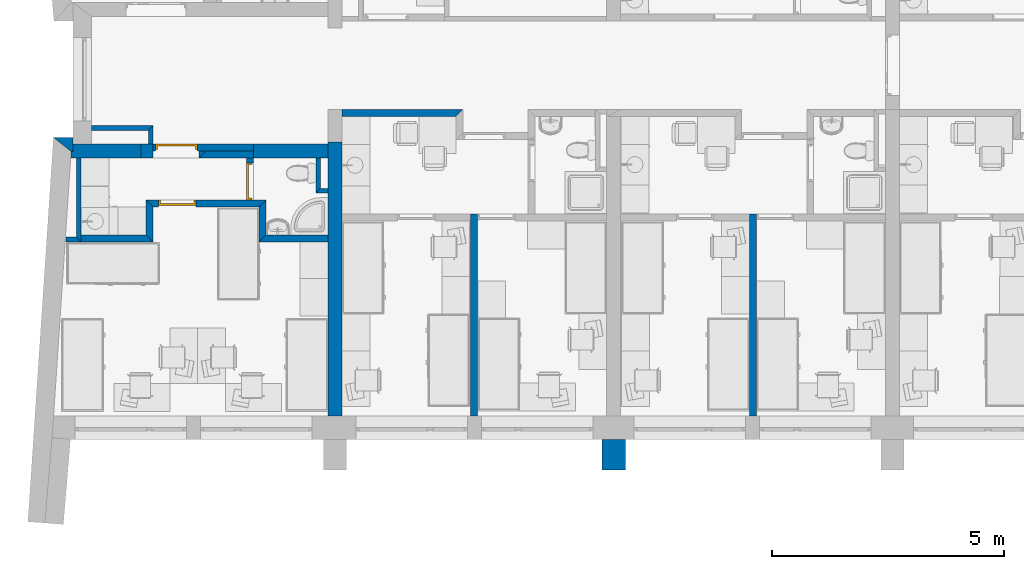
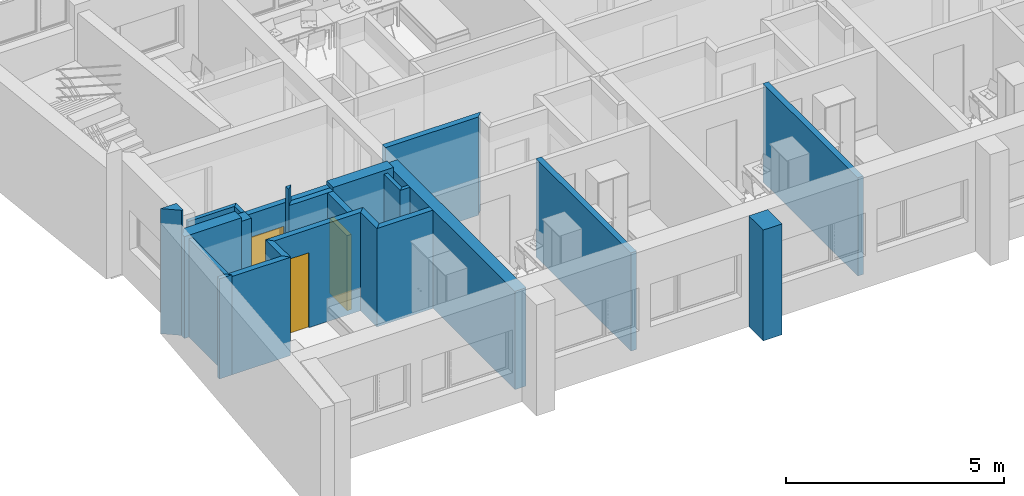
# One storey, part 2 of 172: 24 walls, 3 doors, 3 openings.
"""IFC2X3 building model written with IfcOpenShell, lengths in millimetres."""

from ifc_helpers import new_model, entity, si_unit, converted_unit, money_unit, direction, frame, origin_with_axes, place, context, subcontext, project, spatial, polyline, outline, extrude, faceted_brep, source, transform, mapped, material, material_list, layer, layer_set, layer_usage, type_object, element, fill, save


model = new_model("IFC2X3")

# Units and contexts
model_context = context("Model", 3, precision=1e-05, world=origin_with_axes(), true_north=direction((0.0, 1.0)))
body_context = subcontext(model_context, "Body", "Model", "MODEL_VIEW")
ifc_project = project(units=[si_unit("LENGTHUNIT", "METRE", prefix="MILLI"), si_unit("AREAUNIT", "SQUARE_METRE"), si_unit("VOLUMEUNIT", "CUBIC_METRE"), converted_unit("PLANEANGLEUNIT", "DEGREE", entity("IfcPlaneAngleMeasure", 0.0174532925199), si_unit("PLANEANGLEUNIT", "RADIAN"), dimensions=[0, 0, 0, 0, 0, 0, 0]), si_unit("SOLIDANGLEUNIT", "STERADIAN"), money_unit("USD"), converted_unit("TIMEUNIT", "Year", entity("IfcTimeMeasure", 31556926.0), si_unit("TIMEUNIT", "SECOND"), dimensions=[0, 0, 0, 0, 0, 0, 0]), si_unit("MASSUNIT", "GRAM"), si_unit("THERMODYNAMICTEMPERATUREUNIT", "DEGREE_CELSIUS"), si_unit("LUMINOUSINTENSITYUNIT", "LUMEN")], contexts=[model_context])

# Site, building, storey
site_placement = place(None, origin_with_axes())
site = spatial("IfcSite", under=ifc_project, at=site_placement, Name="Site", CompositionType="ELEMENT")
building_placement = place(site_placement, origin_with_axes())
building = spatial("IfcBuilding", under=site, at=building_placement, Name="Building", CompositionType="ELEMENT")
storey_placement = place(building_placement, frame((0.0, 0.0, 3200.0), z_axis=(0.0, 0.0, 1.0), x_axis=(1.0, 0.0, 0.0)))
storey = spatial("IfcBuildingStorey", under=building, at=storey_placement, Name="3KORRUS", CompositionType="ELEMENT", Elevation=3200.0)

# Walls
ifc_material_1 = material(Name="Olemasolevad seinad tellis, uus viimistlus")
ifc_layer_1 = layer(ifc_material_1, 300.0, ventilated="UNKNOWN")
ifc_layer_set_1 = layer_set([ifc_layer_1], Name="Olemasolevad seinad tellis, uus viimistlus 300")
ifc_layer_usage_1 = layer_usage(ifc_layer_set_1, "AXIS2", "POSITIVE", -300.0)
wall_type_1 = type_object("IfcWallType", Name="Olemasolevad seinad tellis, uus viimistlus 300", PredefinedType="NOTDEFINED")
wall_1_placement = place(storey_placement, frame((-54200.4261075, -13645.7452196, 0.0), z_axis=(0.0, 0.0, 1.0), x_axis=(1.0, 0.0, 0.0)))
element("IfcWallStandardCase", 1, at=wall_1_placement, inside=storey, type_object=wall_type_1, material=ifc_layer_usage_1, Name="VS1", ObjectType="VS1", context=body_context, shape_type="SweptSolid", body=[
    extrude(outline(polyline([(380.933472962, -300.0), (422.4879505, -300.0), (422.4879505, 0.0), (0.0, 0.0), (380.933472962, -300.0)])), origin_with_axes(), (0.0, 0.0, 1.0), 3500.0),
])
ifc_layer_2 = layer(ifc_material_1, 500.0, ventilated="UNKNOWN")
ifc_layer_set_2 = layer_set([ifc_layer_2], Name="Olemasolevad seinad tellis, uus viimistlus 500")
ifc_layer_usage_2 = layer_usage(ifc_layer_set_2, "AXIS2", "POSITIVE", -100.0)
wall_type_2 = type_object("IfcWallType", Name="Olemasolevad seinad tellis, uus viimistlus 500", PredefinedType="NOTDEFINED")
wall_2_placement = place(storey_placement, frame((-41990.2967033, -20796.6419407, 0.0), z_axis=(0.0, 0.0, 1.0), x_axis=(0.0, 1.0, 0.0)))
element("IfcWallStandardCase", 2, at=wall_2_placement, inside=storey, type_object=wall_type_2, material=ifc_layer_usage_2, Name="VS1", ObjectType="VS1", context=body_context, shape_type="SweptSolid", body=[
    extrude(outline(polyline([(0.0, -100.0), (657.402041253, -100.0), (657.402041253, 400.0), (0.0, 400.0), (0.0, -100.0)])), origin_with_axes(), (0.0, 0.0, 1.0), 3100.0),
])

# Wall, opening, door
ifc_material_2 = material(Name="UmbKipsplaat")
ifc_layer_3 = layer(ifc_material_2, 13.0, ventilated="UNKNOWN")
ifc_layer_4 = layer(ifc_material_2, 13.0, ventilated="UNKNOWN")
ifc_material_3 = material(Name="SOOJUSTUS MINERAALVILL")
ifc_layer_5 = layer(ifc_material_3, 98.0, ventilated="UNKNOWN")
ifc_layer_6 = layer(ifc_material_2, 13.0, ventilated="UNKNOWN")
ifc_layer_7 = layer(ifc_material_2, 13.0, ventilated="UNKNOWN")
ifc_layer_set_3 = layer_set([ifc_layer_3, ifc_layer_4, ifc_layer_5, ifc_layer_6, ifc_layer_7], Name="kipssein150")
ifc_layer_usage_3 = layer_usage(ifc_layer_set_3, "AXIS2", "POSITIVE", -150.0)
wall_type_3 = type_object("IfcWallType", Name="kipssein150 150", PredefinedType="NOTDEFINED")
wall_3_placement = place(storey_placement, frame((-52053.4064051, -13787.3375674, 0.0), z_axis=(0.0, 0.0, 1.0), x_axis=(1.0, 0.0, 0.0)))
wall_3 = element("IfcWallStandardCase", 3, at=wall_3_placement, inside=storey, type_object=wall_type_3, material=ifc_layer_usage_3, Name="SS1", ObjectType="SS1", context=body_context, shape_type="SweptSolid", body=[
    extrude(outline(polyline([(0.0, -150.0), (2162.95649813, -150.0), (2162.95649813, 0.0), (0.0, 0.0), (0.0, -150.0)])), origin_with_axes(), (0.0, 0.0, 1.0), 2750.0),
])
opening_1_placement = place(wall_3_placement, frame((500.0, 0.0, 0.0), z_axis=(0.0, 0.0, 1.0), x_axis=(1.0, 0.0, 0.0)))
opening_1 = element("IfcOpeningElement", 4, at=opening_1_placement, cuts=wall_3, Name="SU2-6", context=body_context, shape_type="SweptSolid", body=[
    extrude(outline(polyline([(-450.0, -2100.0), (450.0, -2100.0), (450.0, 0.0), (-450.0, 0.0), (-450.0, -2100.0)])), frame((0.0, -150.0, 0.0), z_axis=(0.0, -1.0, 0.0), x_axis=(-1.0, 0.0, 0.0)), (0.0, 0.0, -1.0), 450.0),
])
ifc_material_4 = material(Name="Background")
ifc_material_list = material_list([ifc_material_4])
door_style_1 = type_object("IfcDoorStyle", Name="Door 19", ConstructionType="NOTDEFINED", OperationType="SINGLE_SWING_LEFT", ParameterTakesPrecedence=False, Sizeable=False)
shared_shape_1 = source(origin_with_axes(), body_context, "Body", "Brep", [
    faceted_brep([(410.0, -40.0, 0.0), (410.0, -115.0, 0.0), (410.0, -115.0, 2060.0), (410.0, -40.0, 2060.0), (422.0, -40.0, 0.0), (422.0, 0.0, 0.0), (450.0, 0.0, 0.0), (450.0, -115.0, 0.0), (450.0, -115.0, 2060.0), (422.0, -40.0, 2060.0), (450.0, 0.0, 2060.0), (422.0, 0.0, 2060.0)], [[[0, 1, 2, 3]], [[4, 5, 6, 7, 1, 0]], [[2, 1, 7, 8]], [[9, 3, 2, 8, 10, 11]], [[9, 4, 0, 3]], [[11, 5, 4, 9]], [[11, 10, 6, 5]], [[7, 6, 10, 8]]]),
    faceted_brep([(-422.0, -40.0, 2060.0), (-422.0, 0.0, 2060.0), (-450.0, 0.0, 2060.0), (-450.0, -115.0, 2060.0), (-410.0, -115.0, 2060.0), (-410.0, -40.0, 2060.0), (-422.0, -40.0, 0.0), (-422.0, 0.0, 0.0), (-450.0, 0.0, 0.0), (-450.0, -115.0, 0.0), (-410.0, -115.0, 0.0), (-410.0, -40.0, 0.0)], [[[0, 1, 2, 3, 4, 5]], [[0, 6, 7, 1]], [[7, 8, 2, 1]], [[3, 2, 8, 9]], [[4, 3, 9, 10]], [[5, 4, 10, 11]], [[5, 11, 6, 0]], [[6, 11, 10, 9, 8, 7]]]),
    faceted_brep([(422.0, 0.0, 2072.0), (-422.0, 0.0, 2072.0), (-422.0, 0.0, 2060.0), (-450.0, 0.0, 2060.0), (-450.0, 0.0, 2100.0), (450.0, 0.0, 2100.0), (450.0, 0.0, 2060.0), (422.0, 0.0, 2060.0), (422.0, -40.0, 2072.0), (-422.0, -40.0, 2072.0), (-422.0, -40.0, 2060.0), (-410.0, -40.0, 2060.0), (-410.0, -115.0, 2060.0), (-450.0, -115.0, 2060.0), (-450.0, -115.0, 2100.0), (450.0, -115.0, 2100.0), (450.0, -115.0, 2060.0), (422.0, -40.0, 2060.0), (410.0, -115.0, 2060.0), (410.0, -40.0, 2060.0)], [[[0, 1, 2, 3, 4, 5, 6, 7]], [[0, 8, 9, 1]], [[1, 9, 10, 2]], [[10, 11, 12, 13, 3, 2]], [[14, 4, 3, 13]], [[15, 5, 4, 14]], [[16, 6, 5, 15]], [[17, 7, 6, 16, 18, 19]], [[7, 17, 8, 0]], [[10, 9, 8, 17, 19, 11]], [[19, 18, 12, 11]], [[13, 12, 18, 16, 15, 14]]]),
    faceted_brep([(-422.0, 0.0, 0.0), (422.0, 0.0, 0.0), (422.0, -40.0, 0.0), (-422.0, -40.0, 0.0), (-422.0, 0.0, 2072.0), (422.0, 0.0, 2072.0), (422.0, -40.0, 2072.0), (-422.0, -40.0, 2072.0)], [[[0, 1, 2, 3]], [[0, 4, 5, 1]], [[1, 5, 6, 2]], [[3, 2, 6, 7]], [[4, 0, 3, 7]], [[5, 4, 7, 6]]]),
])
door_1_placement = place(opening_1_placement, frame((-450.0, 0.0, 0.0), z_axis=(0.0, 0.0, 1.0), x_axis=(1.0, 0.0, 0.0)))
door_1 = element("IfcDoor", 5, at=door_1_placement, inside=storey, type_object=door_style_1, material=ifc_material_list, Name="SU2-6", ObjectType="Korteri välisuks", OverallHeight=2100.0, OverallWidth=900.0, context=body_context, shape_type="MappedRepresentation", body=[
    mapped(shared_shape_1, transform((450.0, 0.0, 0.0))),
])
fill(opening_1, door_1)

# Walls
ifc_layer_usage_4 = layer_usage(ifc_layer_set_3, "AXIS2", "POSITIVE", -150.0)
wall_4_placement = place(storey_placement, frame((-51063.4160033, -14087.3375674, 0.0), z_axis=(0.0, 0.0, 1.0), x_axis=(0.0, 1.0, 0.0)))
element("IfcWallStandardCase", 6, at=wall_4_placement, inside=storey, type_object=wall_type_3, material=ifc_layer_usage_4, Name="SS1", ObjectType="SS1", context=body_context, shape_type="SweptSolid", body=[
    extrude(outline(polyline([(150.0, -150.0), (150.0, 0.0), (0.0, 0.0), (150.0, -150.0)])), origin_with_axes(), (0.0, 0.0, 1.0), 3200.0),
])
ifc_layer_usage_5 = layer_usage(ifc_layer_set_3, "AXIS2", "POSITIVE", -150.0)
wall_5_placement = place(storey_placement, frame((-49890.4499069, -14087.3375674, 0.0), z_axis=(0.0, 0.0, 1.0), x_axis=(-1.0, 0.0, 0.0)))
element("IfcWallStandardCase", 7, at=wall_5_placement, inside=storey, type_object=wall_type_3, material=ifc_layer_usage_5, Name="SS1", ObjectType="SS1", context=body_context, shape_type="SweptSolid", body=[
    extrude(outline(polyline([(0.0, -150.0), (1022.9660964, -150.0), (1172.9660964, 0.0), (0.0, 0.0), (0.0, -150.0)])), origin_with_axes(), (0.0, 0.0, 1.0), 2750.0),
])
ifc_layer_usage_6 = layer_usage(ifc_layer_set_3, "AXIS2", "POSITIVE", 0.0)
wall_6_placement = place(storey_placement, frame((-45070.2967033, -19739.2398994, 0.0), z_axis=(0.0, 0.0, 1.0), x_axis=(0.0, 1.0, 0.0)))
element("IfcWallStandardCase", 8, at=wall_6_placement, inside=storey, type_object=wall_type_3, material=ifc_layer_usage_6, Name="SS1", ObjectType="SS1", context=body_context, shape_type="SweptSolid", body=[
    extrude(outline(polyline([(100.0, 0.0), (4450.0, 0.0), (4450.0, 150.0), (100.0, 150.0), (100.0, 0.0)])), origin_with_axes(), (0.0, 0.0, 1.0), 2750.0),
])
ifc_layer_usage_7 = layer_usage(ifc_layer_set_3, "AXIS2", "POSITIVE", 0.0)
wall_7_placement = place(storey_placement, frame((-45533.8623684, -13039.2398994, 0.0), z_axis=(0.0, 0.0, 1.0), x_axis=(-1.0, 0.0, 0.0)))
element("IfcWallStandardCase", 9, at=wall_7_placement, inside=storey, type_object=wall_type_3, material=ifc_layer_usage_7, Name="SS1", ObjectType="SS1", context=body_context, shape_type="SweptSolid", body=[
    extrude(outline(polyline([(-150.0, 0.0), (2456.4343349, 0.0), (2456.4343349, 150.0), (0.0, 150.0), (-150.0, 0.0)])), origin_with_axes(), (0.0, 0.0, 1.0), 2750.0),
])
ifc_layer_usage_8 = layer_usage(ifc_layer_set_3, "AXIS2", "POSITIVE", -150.0)
wall_8_placement = place(storey_placement, frame((-52203.4064051, -15738.0262806, 0.0), z_axis=(0.0, 0.0, 1.0), x_axis=(0.0, 1.0, 0.0)))
element("IfcWallStandardCase", 10, at=wall_8_placement, inside=storey, type_object=wall_type_3, material=ifc_layer_usage_8, Name="SS1", ObjectType="SS1", context=body_context, shape_type="SweptSolid", body=[
    extrude(outline(polyline([(-150.0, -150.0), (598.5156342, -150.0), (748.5156342, 0.0), (0.0, 0.0), (-150.0, -150.0)])), origin_with_axes(), (0.0, 0.0, 1.0), 2750.0),
])
ifc_layer_usage_9 = layer_usage(ifc_layer_set_3, "AXIS2", "POSITIVE", 0.0)
wall_9_placement = place(storey_placement, frame((-39070.2967033, -19739.2398994, 0.0), z_axis=(0.0, 0.0, 1.0), x_axis=(0.0, 1.0, 0.0)))
element("IfcWallStandardCase", 11, at=wall_9_placement, inside=storey, type_object=wall_type_3, material=ifc_layer_usage_9, Name="SS1", ObjectType="SS1", context=body_context, shape_type="SweptSolid", body=[
    extrude(outline(polyline([(100.0, 0.0), (4450.0, 0.0), (4450.0, 150.0), (100.0, 150.0), (100.0, 0.0)])), origin_with_axes(), (0.0, 0.0, 1.0), 2750.0),
])

# Wall, opening, door
ifc_layer_usage_10 = layer_usage(ifc_layer_set_3, "AXIS2", "POSITIVE", 0.0)
wall_10_placement = place(storey_placement, frame((-50040.4499069, -14087.3375674, 0.0), z_axis=(0.0, 0.0, 1.0), x_axis=(0.0, -1.0, 0.0)))
wall_10 = element("IfcWallStandardCase", 12, at=wall_10_placement, inside=storey, type_object=wall_type_3, material=ifc_layer_usage_10, Name="SS1", ObjectType="SS1", context=body_context, shape_type="SweptSolid", body=[
    extrude(outline(polyline([(0.0, 0.0), (902.173079, 0.0), (902.173079, 150.0), (0.0, 150.0), (0.0, 0.0)])), origin_with_axes(), (0.0, 0.0, 1.0), 2750.0),
])
opening_2_placement = place(wall_10_placement, frame((502.173079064, 0.0, 0.0), z_axis=(0.0, 0.0, 1.0), x_axis=(1.0, 0.0, 0.0)))
opening_2 = element("IfcOpeningElement", 13, at=opening_2_placement, cuts=wall_10, Name="SU3-3", context=body_context, shape_type="SweptSolid", body=[
    extrude(outline(polyline([(-400.0, -2100.0), (400.0, -2100.0), (400.0, 0.0), (-400.0, 0.0), (-400.0, -2100.0)])), frame((0.0, 150.0, 0.0), z_axis=(0.0, 1.0, 0.0), x_axis=(1.0, 0.0, 0.0)), (0.0, 0.0, -1.0), 450.0),
])
door_style_2 = type_object("IfcDoorStyle", Name="Door 19", ConstructionType="NOTDEFINED", OperationType="SINGLE_SWING_LEFT", ParameterTakesPrecedence=False, Sizeable=False)
shared_shape_2 = source(origin_with_axes(), body_context, "Body", "Brep", [
    faceted_brep([(360.0, -40.0, 0.0), (360.0, -115.0, 0.0), (360.0, -115.0, 2060.0), (360.0, -40.0, 2060.0), (372.0, -40.0, 0.0), (372.0, 0.0, 0.0), (400.0, 0.0, 0.0), (400.0, -115.0, 0.0), (400.0, -115.0, 2060.0), (372.0, -40.0, 2060.0), (400.0, 0.0, 2060.0), (372.0, 0.0, 2060.0)], [[[0, 1, 2, 3]], [[4, 5, 6, 7, 1, 0]], [[2, 1, 7, 8]], [[9, 3, 2, 8, 10, 11]], [[9, 4, 0, 3]], [[11, 5, 4, 9]], [[11, 10, 6, 5]], [[7, 6, 10, 8]]]),
    faceted_brep([(-372.0, -40.0, 2060.0), (-372.0, 0.0, 2060.0), (-400.0, 0.0, 2060.0), (-400.0, -115.0, 2060.0), (-360.0, -115.0, 2060.0), (-360.0, -40.0, 2060.0), (-372.0, -40.0, 0.0), (-372.0, 0.0, 0.0), (-400.0, 0.0, 0.0), (-400.0, -115.0, 0.0), (-360.0, -115.0, 0.0), (-360.0, -40.0, 0.0)], [[[0, 1, 2, 3, 4, 5]], [[0, 6, 7, 1]], [[7, 8, 2, 1]], [[3, 2, 8, 9]], [[4, 3, 9, 10]], [[5, 4, 10, 11]], [[5, 11, 6, 0]], [[6, 11, 10, 9, 8, 7]]]),
    faceted_brep([(372.0, 0.0, 2072.0), (-372.0, 0.0, 2072.0), (-372.0, 0.0, 2060.0), (-400.0, 0.0, 2060.0), (-400.0, 0.0, 2100.0), (400.0, 0.0, 2100.0), (400.0, 0.0, 2060.0), (372.0, 0.0, 2060.0), (372.0, -40.0, 2072.0), (-372.0, -40.0, 2072.0), (-372.0, -40.0, 2060.0), (-360.0, -40.0, 2060.0), (-360.0, -115.0, 2060.0), (-400.0, -115.0, 2060.0), (-400.0, -115.0, 2100.0), (400.0, -115.0, 2100.0), (400.0, -115.0, 2060.0), (372.0, -40.0, 2060.0), (360.0, -115.0, 2060.0), (360.0, -40.0, 2060.0)], [[[0, 1, 2, 3, 4, 5, 6, 7]], [[0, 8, 9, 1]], [[1, 9, 10, 2]], [[10, 11, 12, 13, 3, 2]], [[14, 4, 3, 13]], [[15, 5, 4, 14]], [[16, 6, 5, 15]], [[17, 7, 6, 16, 18, 19]], [[7, 17, 8, 0]], [[10, 9, 8, 17, 19, 11]], [[19, 18, 12, 11]], [[13, 12, 18, 16, 15, 14]]]),
    faceted_brep([(-372.0, 0.0, 0.0), (372.0, 0.0, 0.0), (372.0, -40.0, 0.0), (-372.0, -40.0, 0.0), (-372.0, 0.0, 2072.0), (372.0, 0.0, 2072.0), (372.0, -40.0, 2072.0), (-372.0, -40.0, 2072.0)], [[[0, 1, 2, 3]], [[0, 4, 5, 1]], [[1, 5, 6, 2]], [[3, 2, 6, 7]], [[4, 0, 3, 7]], [[5, 4, 7, 6]]]),
])
door_2_placement = place(opening_2_placement, frame((400.0, 0.0, 0.0), z_axis=(0.0, 0.0, 1.0), x_axis=(-1.0, 0.0, 0.0)))
door_2 = element("IfcDoor", 14, at=door_2_placement, inside=storey, type_object=door_style_2, material=ifc_material_list, Name="SU3-3", ObjectType="WC-uks", OverallHeight=2100.0, OverallWidth=800.0, context=body_context, shape_type="MappedRepresentation", body=[
    mapped(shared_shape_2, transform((400.0, 0.0, 0.0))),
])
fill(opening_2, door_2)

ifc_layer_usage_11 = layer_usage(ifc_layer_set_3, "AXIS2", "POSITIVE", 0.0)
wall_11_placement = place(storey_placement, frame((-49773.7651372, -14989.5106464, 0.0), z_axis=(0.0, 0.0, 1.0), x_axis=(-1.0, 0.0, 0.0)))
wall_11 = element("IfcWallStandardCase", 15, at=wall_11_placement, inside=storey, type_object=wall_type_3, material=ifc_layer_usage_11, Name="SS1", ObjectType="SS1", context=body_context, shape_type="SweptSolid", body=[
    extrude(outline(polyline([(-150.0, 0.0), (2429.6412679, 0.0), (2279.6412679, 150.0), (0.0, 150.0), (-150.0, 0.0)])), origin_with_axes(), (0.0, 0.0, 1.0), 2750.0),
])
opening_3_placement = place(wall_11_placement, frame((1761.78052714, 0.0, 0.0), z_axis=(0.0, 0.0, 1.0), x_axis=(1.0, 0.0, 0.0)))
opening_3 = element("IfcOpeningElement", 16, at=opening_3_placement, cuts=wall_11, Name="SU3-5", context=body_context, shape_type="SweptSolid", body=[
    extrude(outline(polyline([(-400.0, 0.0), (400.0, 0.0), (400.0, 2100.0), (-400.0, 2100.0), (-400.0, 0.0)])), frame((0.0, 150.0, 0.0), z_axis=(0.0, -1.0, 0.0), x_axis=(1.0, 0.0, 0.0)), (0.0, 0.0, 1.0), 450.0),
])
door_style_3 = type_object("IfcDoorStyle", Name="Door 19", ConstructionType="NOTDEFINED", OperationType="SINGLE_SWING_RIGHT", ParameterTakesPrecedence=False, Sizeable=False)
shared_shape_3 = source(origin_with_axes(), body_context, "Body", "Brep", [
    faceted_brep([(-360.0, -75.0, 0.0), (-360.0, -75.0, 2060.0), (-360.0, -150.0, 2060.0), (-360.0, -150.0, 0.0), (-372.0, -75.0, 2060.0), (-372.0, -75.0, 0.0), (-372.0, -35.0, 2060.0), (-400.0, -35.0, 2060.0), (-400.0, -150.0, 2060.0), (-400.0, -150.0, 0.0), (-400.0, -35.0, 0.0), (-372.0, -35.0, 0.0)], [[[0, 1, 2, 3]], [[4, 1, 0, 5]], [[4, 6, 7, 8, 2, 1]], [[2, 8, 9, 3]], [[5, 0, 3, 9, 10, 11]], [[6, 4, 5, 11]], [[6, 11, 10, 7]], [[9, 8, 7, 10]]]),
    faceted_brep([(372.0, -75.0, 2060.0), (360.0, -75.0, 2060.0), (360.0, -150.0, 2060.0), (400.0, -150.0, 2060.0), (400.0, -35.0, 2060.0), (372.0, -35.0, 2060.0), (372.0, -75.0, 0.0), (360.0, -75.0, 0.0), (360.0, -150.0, 0.0), (400.0, -150.0, 0.0), (400.0, -35.0, 0.0), (372.0, -35.0, 0.0)], [[[0, 1, 2, 3, 4, 5]], [[1, 0, 6, 7]], [[1, 7, 8, 2]], [[2, 8, 9, 3]], [[3, 9, 10, 4]], [[11, 5, 4, 10]], [[0, 5, 11, 6]], [[6, 11, 10, 9, 8, 7]]]),
    faceted_brep([(-372.0, -35.0, 2072.0), (-372.0, -35.0, 2060.0), (-400.0, -35.0, 2060.0), (-400.0, -35.0, 2100.0), (400.0, -35.0, 2100.0), (400.0, -35.0, 2060.0), (372.0, -35.0, 2060.0), (372.0, -35.0, 2072.0), (-372.0, -75.0, 2072.0), (-372.0, -75.0, 2060.0), (-360.0, -75.0, 2060.0), (-360.0, -150.0, 2060.0), (-400.0, -150.0, 2060.0), (-400.0, -150.0, 2100.0), (400.0, -150.0, 2100.0), (400.0, -150.0, 2060.0), (372.0, -75.0, 2060.0), (360.0, -150.0, 2060.0), (360.0, -75.0, 2060.0), (372.0, -75.0, 2072.0)], [[[0, 1, 2, 3, 4, 5, 6, 7]], [[1, 0, 8, 9]], [[9, 10, 11, 12, 2, 1]], [[12, 13, 3, 2]], [[13, 14, 4, 3]], [[14, 15, 5, 4]], [[16, 6, 5, 15, 17, 18]], [[7, 6, 16, 19]], [[0, 7, 19, 8]], [[16, 18, 10, 9, 8, 19]], [[10, 18, 17, 11]], [[15, 14, 13, 12, 11, 17]]]),
    faceted_brep([(372.0, -35.0, 0.0), (372.0, -75.0, 0.0), (-372.0, -75.0, 0.0), (-372.0, -35.0, 0.0), (372.0, -35.0, 2072.0), (372.0, -75.0, 2072.0), (-372.0, -75.0, 2072.0), (-372.0, -35.0, 2072.0)], [[[0, 1, 2, 3]], [[4, 5, 1, 0]], [[1, 5, 6, 2]], [[3, 2, 6, 7]], [[0, 3, 7, 4]], [[7, 6, 5, 4]]]),
])
door_3_placement = place(opening_3_placement, frame((-400.0, 0.0, 0.0), z_axis=(0.0, 0.0, 1.0), x_axis=(1.0, 0.0, 0.0)))
door_3 = element("IfcDoor", 17, at=door_3_placement, inside=storey, type_object=door_style_3, material=ifc_material_list, Name="SU3-5", ObjectType="Toa uks", OverallHeight=2100.0, OverallWidth=800.0, context=body_context, shape_type="MappedRepresentation", body=[
    mapped(shared_shape_3, transform((400.0, 150.0, 0.0))),
])
fill(opening_3, door_3)

# Walls
ifc_layer_usage_12 = layer_usage(ifc_layer_set_3, "AXIS2", "POSITIVE", 0.0)
wall_12_placement = place(storey_placement, frame((-52203.4064051, -15738.0262806, 0.0), z_axis=(0.0, 0.0, 1.0), x_axis=(-1.0, 0.0, 0.0)))
element("IfcWallStandardCase", 18, at=wall_12_placement, inside=storey, type_object=wall_type_3, material=ifc_layer_usage_12, Name="SS1", ObjectType="SS1", context=body_context, shape_type="SweptSolid", body=[
    extrude(outline(polyline([(0.0, 0.0), (1405.0857054, 0.0), (1405.0857054, 150.0), (-150.0, 150.0), (0.0, 0.0)])), origin_with_axes(), (0.0, 0.0, 1.0), 2750.0),
])
ifc_layer_usage_13 = layer_usage(ifc_layer_set_3, "AXIS2", "POSITIVE", -150.0)
wall_13_placement = place(storey_placement, frame((-49773.7651372, -15739.0262806, 0.0), z_axis=(0.0, 0.0, 1.0), x_axis=(1.0, 0.0, 0.0)))
element("IfcWallStandardCase", 19, at=wall_13_placement, inside=storey, type_object=wall_type_3, material=ifc_layer_usage_13, Name="SS1", ObjectType="SS1", context=body_context, shape_type="SweptSolid", body=[
    extrude(outline(polyline([(0.0, -150.0), (1483.46843392, -150.0), (1483.46843392, 0.0), (150.0, 0.0), (0.0, -150.0)])), origin_with_axes(), (0.0, 0.0, 1.0), 2750.0),
])
ifc_layer_usage_14 = layer_usage(ifc_layer_set_3, "AXIS2", "POSITIVE", -150.0)
wall_14_placement = place(storey_placement, frame((-49773.7651372, -15739.0262806, 0.0), z_axis=(0.0, 0.0, 1.0), x_axis=(0.0, 1.0, 0.0)))
element("IfcWallStandardCase", 20, at=wall_14_placement, inside=storey, type_object=wall_type_3, material=ifc_layer_usage_14, Name="SS1", ObjectType="SS1", context=body_context, shape_type="SweptSolid", body=[
    extrude(outline(polyline([(0.0, -150.0), (749.5156342, -150.0), (599.5156342, 0.0), (-150.0, 0.0), (0.0, -150.0)])), origin_with_axes(), (0.0, 0.0, 1.0), 2750.0),
])
ifc_material_5 = material(Name="Olemasolevad seinad tellis, uus viimistlus")
ifc_layer_8 = layer(ifc_material_5, 300.0, ventilated="UNKNOWN")
ifc_layer_set_4 = layer_set([ifc_layer_8], Name="Olemasolevad seinad tellis, uus viimistlus  300")
ifc_layer_usage_15 = layer_usage(ifc_layer_set_4, "AXIS2", "POSITIVE", 0.0)
wall_type_4 = type_object("IfcWallType", Name="Olemasolevad seinad tellis, uus viimistlus  300", PredefinedType="NOTDEFINED")
wall_15_placement = place(storey_placement, frame((-47990.2967033, -19639.2398994, 0.0), z_axis=(0.0, 0.0, 1.0), x_axis=(0.0, 1.0, 0.0)))
element("IfcWallStandardCase", 21, at=wall_15_placement, inside=storey, type_object=wall_type_4, material=ifc_layer_usage_15, Name="KS1", ObjectType="KS1", context=body_context, shape_type="SweptSolid", body=[
    extrude(outline(polyline([(0.0, 0.0), (5900.0, 0.0), (5900.0, 300.0), (0.0, 300.0), (0.0, 0.0)])), origin_with_axes(), (0.0, 0.0, 1.0), 2750.0),
])
ifc_layer_usage_16 = layer_usage(ifc_layer_set_4, "AXIS2", "POSITIVE", -300.0)
wall_16_placement = place(storey_placement, frame((-49890.4499069, -13787.3375674, 0.0), z_axis=(0.0, 0.0, 1.0), x_axis=(1.0, 0.0, 0.0)))
element("IfcWallStandardCase", 22, at=wall_16_placement, inside=storey, type_object=wall_type_4, material=ifc_layer_usage_16, Name="KS1", ObjectType="KS1", context=body_context, shape_type="SweptSolid", body=[
    extrude(outline(polyline([(0.0, -300.0), (1600.1532036, -300.0), (1600.1532036, 0.0), (0.0, 0.0), (0.0, -300.0)])), origin_with_axes(), (0.0, 0.0, 1.0), 2850.0),
])
ifc_layer_usage_17 = layer_usage(ifc_layer_set_4, "AXIS2", "POSITIVE", -300.0)
wall_17_placement = place(storey_placement, frame((-54209.8419994, -13787.3375674, 0.0), z_axis=(0.0, 0.0, 1.0), x_axis=(1.0, 0.0, 0.0)))
element("IfcWallStandardCase", 23, at=wall_17_placement, inside=storey, type_object=wall_type_4, material=ifc_layer_usage_17, Name="KS1", ObjectType="KS1", context=body_context, shape_type="SweptSolid", body=[
    extrude(outline(polyline([(380.933473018, -300.0), (1897.99813996, -300.0), (1897.99813996, 0.0), (400.883474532, 0.0), (380.933473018, -300.0)])), origin_with_axes(), (0.0, 0.0, 1.0), 2850.0),
])
ifc_layer_usage_18 = layer_usage(ifc_layer_set_4, "AXIS2", "POSITIVE", -300.0)
wall_18_placement = place(storey_placement, frame((-53777.938157, -13787.3375674, 0.0), z_axis=(0.0, 0.0, 1.0), x_axis=(1.0, 0.0, 0.0)))
element("IfcWallStandardCase", 24, at=wall_18_placement, inside=storey, type_object=wall_type_4, material=ifc_layer_usage_18, Name="KS1", ObjectType="KS1", context=body_context, shape_type="SweptSolid", body=[
    extrude(outline(polyline([(0.0, -300.0), (1724.53175192, -300.0), (1724.53175192, 0.0), (0.0, 0.0), (0.0, -300.0)])), origin_with_axes(), (0.0, 0.0, 1.0), 2750.0),
])
ifc_material_6 = material(Name="krohv")
ifc_layer_9 = layer(ifc_material_6, 2.0, ventilated="UNKNOWN")
ifc_layer_10 = layer(ifc_material_6, 10.0, ventilated="UNKNOWN")
ifc_material_7 = material(Name="Kergplokk")
ifc_layer_11 = layer(ifc_material_7, 76.0, ventilated="UNKNOWN")
ifc_layer_12 = layer(ifc_material_6, 10.0, ventilated="UNKNOWN")
ifc_layer_13 = layer(ifc_material_6, 2.0, ventilated="UNKNOWN")
ifc_layer_set_5 = layer_set([ifc_layer_9, ifc_layer_10, ifc_layer_11, ifc_layer_12, ifc_layer_13], Name="Kergplokk Bauroc 100")
ifc_layer_usage_19 = layer_usage(ifc_layer_set_5, "AXIS2", "POSITIVE", -100.0)
wall_type_5 = type_object("IfcWallType", Name="Kergplokk Bauroc 100 100", PredefinedType="NOTDEFINED")
wall_19_placement = place(storey_placement, frame((-52053.4064051, -13487.3375674, 0.0), z_axis=(0.0, 0.0, 1.0), x_axis=(0.0, -1.0, 0.0)))
element("IfcWallStandardCase", 25, at=wall_19_placement, inside=storey, type_object=wall_type_5, material=ifc_layer_usage_19, Name="SS2", ObjectType="SS2", context=body_context, shape_type="SweptSolid", body=[
    extrude(outline(polyline([(0.0, -100.0), (293.50271178, -100.0), (293.50271178, 0.0), (-100.0, 0.0), (0.0, -100.0)])), origin_with_axes(), (0.0, 0.0, 1.0), 2750.0),
])
ifc_layer_usage_20 = layer_usage(ifc_layer_set_5, "AXIS2", "POSITIVE", 0.0)
wall_20_placement = place(storey_placement, frame((-53608.4921105, -15788.0262806, 0.0), z_axis=(0.0, 0.0, 1.0), x_axis=(-1.0, 0.0, 0.0)))
element("IfcWallStandardCase", 26, at=wall_20_placement, inside=storey, type_object=wall_type_5, material=ifc_layer_usage_20, Name="SS2", ObjectType="SS2", context=body_context, shape_type="SweptSolid", body=[
    extrude(outline(polyline([(100.0, 0.0), (326.862223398, 0.0), (326.862223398, 100.0), (0.0, 100.0), (100.0, 0.0)])), origin_with_axes(), (0.0, 0.0, 1.0), 2800.0),
])
ifc_layer_usage_21 = layer_usage(ifc_layer_set_5, "AXIS2", "POSITIVE", 0.0)
wall_21_placement = place(storey_placement, frame((-53377.938157, -13487.3375674, 0.0), z_axis=(0.0, 0.0, 1.0), x_axis=(1.0, 0.0, 0.0)))
element("IfcWallStandardCase", 27, at=wall_21_placement, inside=storey, type_object=wall_type_5, material=ifc_layer_usage_21, Name="SS2", ObjectType="SS2", context=body_context, shape_type="SweptSolid", body=[
    extrude(outline(polyline([(0.0, 0.0), (1224.5317519, 0.0), (1324.5317519, 100.0), (0.0, 100.0), (0.0, 0.0)])), origin_with_axes(), (0.0, 0.0, 1.0), 2750.0),
])
ifc_layer_usage_22 = layer_usage(ifc_layer_set_5, "AXIS2", "POSITIVE", -100.0)
wall_22_placement = place(storey_placement, frame((-48550.2967033, -14839.0262806, 0.0), z_axis=(0.0, 0.0, 1.0), x_axis=(0.0, 1.0, 0.0)))
element("IfcWallStandardCase", 28, at=wall_22_placement, inside=storey, type_object=wall_type_5, material=ifc_layer_usage_22, Name="SS2", ObjectType="SS2", context=body_context, shape_type="SweptSolid", body=[
    extrude(outline(polyline([(100.0, -100.0), (751.6887132, -100.0), (751.6887132, 0.0), (0.0, 0.0), (100.0, -100.0)])), origin_with_axes(), (0.0, 0.0, 1.0), 2750.0),
])
ifc_layer_usage_23 = layer_usage(ifc_layer_set_5, "AXIS2", "POSITIVE", -100.0)
wall_23_placement = place(storey_placement, frame((-53608.4921105, -14087.3375674, 0.0), z_axis=(0.0, 0.0, 1.0), x_axis=(0.0, -1.0, 0.0)))
element("IfcWallStandardCase", 29, at=wall_23_placement, inside=storey, type_object=wall_type_5, material=ifc_layer_usage_23, Name="SS2", ObjectType="SS2", context=body_context, shape_type="SweptSolid", body=[
    extrude(outline(polyline([(0.0, -100.0), (1700.6887132, -100.0), (1800.6887132, 0.0), (0.0, 0.0), (0.0, -100.0)])), origin_with_axes(), (0.0, 0.0, 1.0), 2750.0),
])
ifc_layer_usage_24 = layer_usage(ifc_layer_set_5, "AXIS2", "POSITIVE", 0.0)
wall_24_placement = place(storey_placement, frame((-48550.2967033, -14839.0262806, 0.0), z_axis=(0.0, 0.0, 1.0), x_axis=(1.0, 0.0, 0.0)))
element("IfcWallStandardCase", 30, at=wall_24_placement, inside=storey, type_object=wall_type_5, material=ifc_layer_usage_24, Name="SS2", ObjectType="SS2", context=body_context, shape_type="SweptSolid", body=[
    extrude(outline(polyline([(0.0, 0.0), (260.0, 0.0), (260.0, 100.0), (100.0, 100.0), (0.0, 0.0)])), origin_with_axes(), (0.0, 0.0, 1.0), 2750.0),
])

save(model, "model.ifc")
